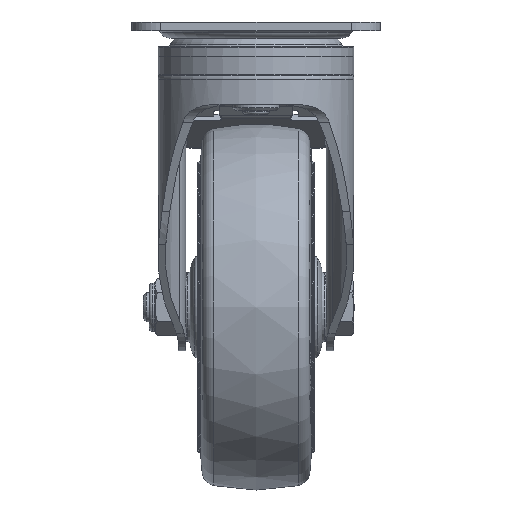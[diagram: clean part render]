
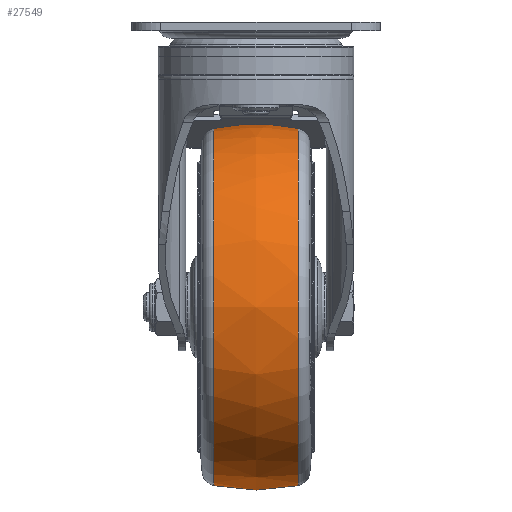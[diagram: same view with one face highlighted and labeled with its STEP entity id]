
A CAD part, left-side view. The second image highlights one B-rep face of the part: STEP entity #27549.
In plain terms, the highlighted free-form (B-spline) face has degree [2, 2] with [3, 9] control points.
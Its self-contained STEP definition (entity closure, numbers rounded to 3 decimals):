
#72=(
BOUNDED_SURFACE()
B_SPLINE_SURFACE(2,2,((#43715,#43716,#43717,#43718,#43719,#43720,#43721,
#43722,#43723),(#43724,#43725,#43726,#43727,#43728,#43729,#43730,#43731,
#43732),(#43733,#43734,#43735,#43736,#43737,#43738,#43739,#43740,#43741)),
 .UNSPECIFIED.,.F.,.T.,.F.)
B_SPLINE_SURFACE_WITH_KNOTS((3,3),(3,2,2,2,3),(-0.208,0.208),
(-3.142,-1.571,0.,1.571,3.142),
 .UNSPECIFIED.)
GEOMETRIC_REPRESENTATION_ITEM()
RATIONAL_B_SPLINE_SURFACE(((1.,0.707,1.,0.707,1.,
0.707,1.,0.707,1.),(0.978,0.692,
0.978,0.692,0.978,0.692,
0.978,0.692,0.978),(1.,0.707,
1.,0.707,1.,0.707,1.,0.707,1.)))
REPRESENTATION_ITEM('')
SURFACE()
);
#7735=FACE_OUTER_BOUND('',#9414,.T.);
#9414=EDGE_LOOP('',(#20784,#20785,#20786,#20787));
#10738=CIRCLE('',#29066,60.992);
#10739=CIRCLE('',#29067,70.);
#10740=CIRCLE('',#29068,60.992);
#12178=VERTEX_POINT('',#43742);
#12179=VERTEX_POINT('',#43744);
#15342=EDGE_CURVE('',#12178,#12178,#10738,.T.);
#15343=EDGE_CURVE('',#12178,#12179,#10739,.T.);
#15344=EDGE_CURVE('',#12179,#12179,#10740,.T.);
#20784=ORIENTED_EDGE('',*,*,#15342,.F.);
#20785=ORIENTED_EDGE('',*,*,#15343,.T.);
#20786=ORIENTED_EDGE('',*,*,#15344,.T.);
#20787=ORIENTED_EDGE('',*,*,#15343,.F.);
#27549=ADVANCED_FACE('',(#7735),#72,.F.);
#29066=AXIS2_PLACEMENT_3D('',#43743,#31587,#31588);
#29067=AXIS2_PLACEMENT_3D('',#43745,#31589,#31590);
#29068=AXIS2_PLACEMENT_3D('',#43746,#31591,#31592);
#31587=DIRECTION('center_axis',(0.,-1.,0.));
#31588=DIRECTION('ref_axis',(0.,0.,
-1.));
#31589=DIRECTION('center_axis',(-1.,0.,0.));
#31590=DIRECTION('ref_axis',(0.,0.,
1.));
#31591=DIRECTION('center_axis',(0.,-1.,0.));
#31592=DIRECTION('ref_axis',(0.,0.,
-1.));
#43715=CARTESIAN_POINT('Ctrl Pts',(32.,14.451,-35.308));
#43716=CARTESIAN_POINT('Ctrl Pts',(-28.992,14.451,-35.308));
#43717=CARTESIAN_POINT('Ctrl Pts',(-28.992,14.451,-96.3));
#43718=CARTESIAN_POINT('Ctrl Pts',(-28.992,14.451,-157.292));
#43719=CARTESIAN_POINT('Ctrl Pts',(32.,14.451,-157.292));
#43720=CARTESIAN_POINT('Ctrl Pts',(92.992,14.451,-157.292));
#43721=CARTESIAN_POINT('Ctrl Pts',(92.992,14.451,-96.3));
#43722=CARTESIAN_POINT('Ctrl Pts',(92.992,14.451,-35.308));
#43723=CARTESIAN_POINT('Ctrl Pts',(32.,14.451,-35.308));
#43724=CARTESIAN_POINT('Ctrl Pts',(32.,0.,
-32.259));
#43725=CARTESIAN_POINT('Ctrl Pts',(-32.041,0.,
-32.259));
#43726=CARTESIAN_POINT('Ctrl Pts',(-32.041,0.,
-96.3));
#43727=CARTESIAN_POINT('Ctrl Pts',(-32.041,0.,
-160.341));
#43728=CARTESIAN_POINT('Ctrl Pts',(32.,0.,
-160.341));
#43729=CARTESIAN_POINT('Ctrl Pts',(96.041,0.,
-160.341));
#43730=CARTESIAN_POINT('Ctrl Pts',(96.041,0.,
-96.3));
#43731=CARTESIAN_POINT('Ctrl Pts',(96.041,0.,
-32.259));
#43732=CARTESIAN_POINT('Ctrl Pts',(32.,0.,
-32.259));
#43733=CARTESIAN_POINT('Ctrl Pts',(32.,-14.451,-35.308));
#43734=CARTESIAN_POINT('Ctrl Pts',(-28.992,-14.451,
-35.308));
#43735=CARTESIAN_POINT('Ctrl Pts',(-28.992,-14.451,
-96.3));
#43736=CARTESIAN_POINT('Ctrl Pts',(-28.992,-14.451,
-157.292));
#43737=CARTESIAN_POINT('Ctrl Pts',(32.,-14.451,-157.292));
#43738=CARTESIAN_POINT('Ctrl Pts',(92.992,-14.451,-157.292));
#43739=CARTESIAN_POINT('Ctrl Pts',(92.992,-14.451,-96.3));
#43740=CARTESIAN_POINT('Ctrl Pts',(92.992,-14.451,-35.308));
#43741=CARTESIAN_POINT('Ctrl Pts',(32.,-14.451,-35.308));
#43742=CARTESIAN_POINT('',(32.,-14.451,-35.308));
#43743=CARTESIAN_POINT('Origin',(32.,-14.451,-96.3));
#43744=CARTESIAN_POINT('',(32.,14.451,-35.308));
#43745=CARTESIAN_POINT('Origin',(32.,0.,-103.8));
#43746=CARTESIAN_POINT('Origin',(32.,14.451,-96.3));
